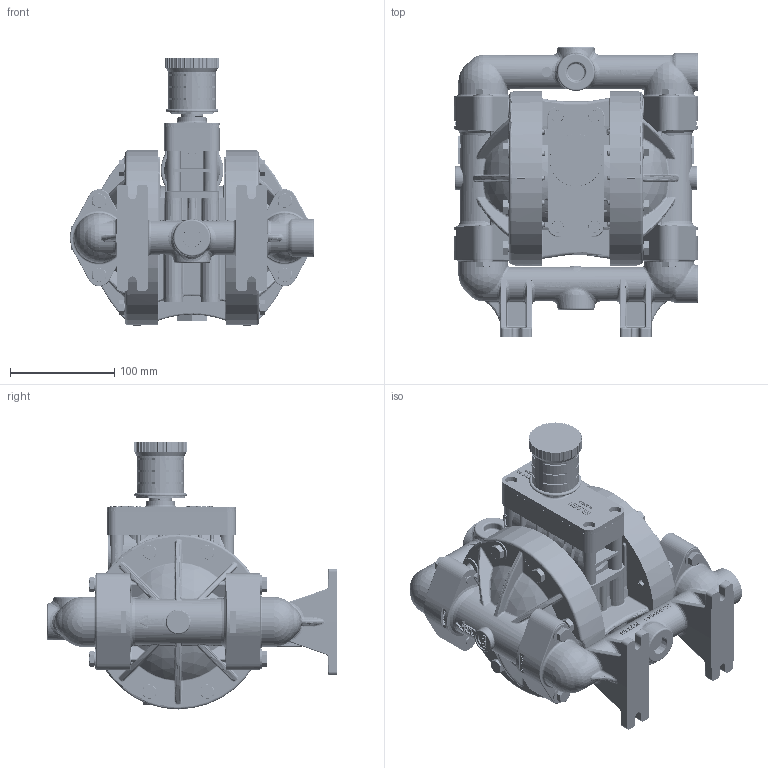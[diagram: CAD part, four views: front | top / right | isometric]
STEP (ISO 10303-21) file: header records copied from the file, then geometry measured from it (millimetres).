
FILE_DESCRIPTION (( 'STEP AP203' ), '1' );
FILE_NAME ('p100_advanced_plastic.STEP', '2022-07-04T20:09:39', ( '' ), ( '' ), 'SwSTEP 2.0', 'SolidWorks 2019', '' );
FILE_SCHEMA (( 'CONFIG_CONTROL_DESIGN' ));
Products named in the file (1): p100_advanced_plastic
Bounding box: 233.96 x 278.39 x 256.57 mm (x, y, z)
Volume: 4050334.4 mm3; surface area: 389897.8 mm2
Topology: 1 solids, 1 shells, 6490 faces, 17259 edges, 11097 vertices
Faces by surface type: plane 4219, cylinder 977, bspline 662, cone 392, torus 144, sphere 96
Entity records: 288894 total; most frequent: CARTESIAN_POINT 134064, ORIENTED_EDGE 34510, DIRECTION 28831, EDGE_CURVE 17255, VERTEX_POINT 11095, LINE 10891, VECTOR 10891, AXIS2_PLACEMENT_3D 8970
